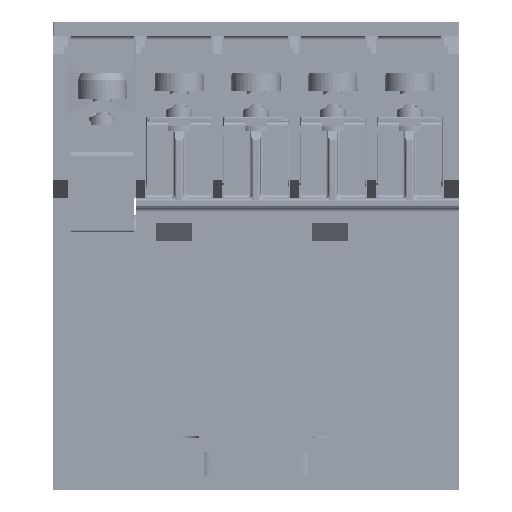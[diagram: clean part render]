
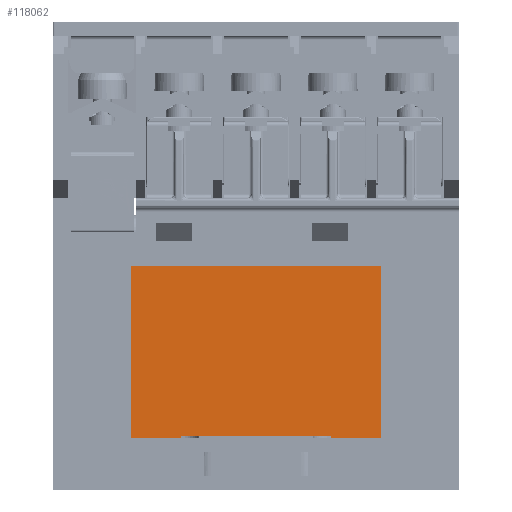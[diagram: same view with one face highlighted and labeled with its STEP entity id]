
A CAD part, front view. The second image highlights one B-rep face of the part: STEP entity #118062.
In plain terms, the highlighted planar face has unit normal (0, -1, 0).
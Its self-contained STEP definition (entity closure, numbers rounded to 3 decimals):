
#31702=DIRECTION('',(-1.,0.,0.));
#31703=VECTOR('',#31702,5.625);
#31704=CARTESIAN_POINT('',(-8.25,-22.175,-12.25));
#31705=LINE('',#31704,#31703);
#31716=DIRECTION('',(0.,0.,-1.));
#31717=VECTOR('',#31716,0.25);
#31718=CARTESIAN_POINT('',(-8.25,-22.175,-12.));
#31719=LINE('',#31718,#31717);
#31724=DIRECTION('',(-1.,0.,0.));
#31725=VECTOR('',#31724,27.75);
#31726=CARTESIAN_POINT('',(13.875,-22.175,6.75));
#31727=LINE('',#31726,#31725);
#31728=DIRECTION('',(0.,0.,1.));
#31729=VECTOR('',#31728,19.);
#31730=CARTESIAN_POINT('',(-13.875,-22.175,-12.25));
#31731=LINE('',#31730,#31729);
#47625=DIRECTION('',(-1.,0.,0.));
#47626=VECTOR('',#47625,16.5);
#47627=CARTESIAN_POINT('',(8.25,-22.175,-12.));
#47628=LINE('',#47627,#47626);
#47646=DIRECTION('',(0.,0.,1.));
#47647=VECTOR('',#47646,0.25);
#47648=CARTESIAN_POINT('',(8.25,-22.175,-12.25));
#47649=LINE('',#47648,#47647);
#47655=DIRECTION('',(-1.,0.,0.));
#47656=VECTOR('',#47655,5.625);
#47657=CARTESIAN_POINT('',(13.875,-22.175,-12.25));
#47658=LINE('',#47657,#47656);
#47693=DIRECTION('',(0.,0.,-1.));
#47694=VECTOR('',#47693,19.);
#47695=CARTESIAN_POINT('',(13.875,-22.175,6.75));
#47696=LINE('',#47695,#47694);
#106699=CARTESIAN_POINT('',(-13.875,-22.175,6.75));
#106700=VERTEX_POINT('',#106699);
#106701=CARTESIAN_POINT('',(13.875,-22.175,6.75));
#106702=VERTEX_POINT('',#106701);
#107094=CARTESIAN_POINT('',(13.875,-22.175,-12.25));
#107095=VERTEX_POINT('',#107094);
#107096=CARTESIAN_POINT('',(-13.875,-22.175,-12.25));
#107098=VERTEX_POINT('',#107096);
#107558=CARTESIAN_POINT('',(-8.25,-22.175,-12.25));
#107560=VERTEX_POINT('',#107558);
#107565=CARTESIAN_POINT('',(8.25,-22.175,-12.));
#107566=VERTEX_POINT('',#107565);
#107567=CARTESIAN_POINT('',(-8.25,-22.175,-12.));
#107568=VERTEX_POINT('',#107567);
#108347=CARTESIAN_POINT('',(8.25,-22.175,-12.25));
#108348=VERTEX_POINT('',#108347);
#118041=CARTESIAN_POINT('',(0.,-22.175,-3.75));
#118042=DIRECTION('',(0.,1.,0.));
#118043=DIRECTION('',(0.,0.,1.));
#118044=AXIS2_PLACEMENT_3D('',#118041,#118042,#118043);
#118045=PLANE('',#118044);
#118046=ORIENTED_EDGE('',*,*,#118032,.T.);
#118047=ORIENTED_EDGE('',*,*,#118002,.T.);
#118049=ORIENTED_EDGE('',*,*,#118048,.T.);
#118051=ORIENTED_EDGE('',*,*,#118050,.F.);
#118053=ORIENTED_EDGE('',*,*,#118052,.T.);
#118055=ORIENTED_EDGE('',*,*,#118054,.T.);
#118057=ORIENTED_EDGE('',*,*,#118056,.T.);
#118059=ORIENTED_EDGE('',*,*,#118058,.T.);
#118060=EDGE_LOOP('',(#118046,#118047,#118049,#118051,#118053,#118055,#118057,
#118059));
#118061=FACE_OUTER_BOUND('',#118060,.F.);
#118062=ADVANCED_FACE('',(#118061),#118045,.F.);
#118002=EDGE_CURVE('',#107560,#107098,#31705,.T.);
#118032=EDGE_CURVE('',#107568,#107560,#31719,.T.);
#118048=EDGE_CURVE('',#107098,#106700,#31731,.T.);
#118050=EDGE_CURVE('',#106702,#106700,#31727,.T.);
#118052=EDGE_CURVE('',#106702,#107095,#47696,.T.);
#118054=EDGE_CURVE('',#107095,#108348,#47658,.T.);
#118056=EDGE_CURVE('',#108348,#107566,#47649,.T.);
#118058=EDGE_CURVE('',#107566,#107568,#47628,.T.);
